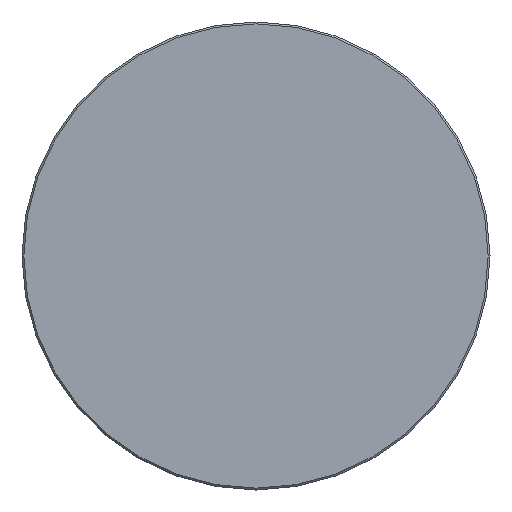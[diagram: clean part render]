
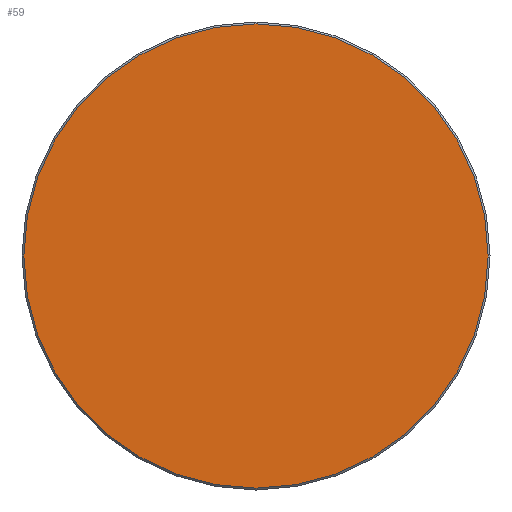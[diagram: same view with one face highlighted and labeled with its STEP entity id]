
A CAD part, left-side view. The second image highlights one B-rep face of the part: STEP entity #59.
In plain terms, the highlighted planar face has unit normal (-1, 0, 0).
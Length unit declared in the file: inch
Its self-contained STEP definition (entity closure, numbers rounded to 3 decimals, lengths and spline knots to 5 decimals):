
#2 = VERTEX_POINT ( 'NONE', #358 ) ;
#14 = DIRECTION ( 'NONE',  ( -1., 0., 0. ) ) ;
#17 = CARTESIAN_POINT ( 'NONE',  ( 0., 0., 0. ) ) ;
#30 = DIRECTION ( 'NONE',  ( 0., -1., 0. ) ) ;
#42 = DIRECTION ( 'NONE',  ( 0., -1., 0. ) ) ;
#55 = EDGE_LOOP ( 'NONE', ( #314, #58 ) ) ;
#58 = ORIENTED_EDGE ( 'NONE', *, *, #245, .T. ) ;
#59 = ADVANCED_FACE ( 'NONE', ( #138 ), #339, .T. ) ;
#61 = CIRCLE ( 'NONE', #107, 0.496 ) ;
#67 = DIRECTION ( 'NONE',  ( -1., 0., 0. ) ) ;
#72 = VERTEX_POINT ( 'NONE', #370 ) ;
#79 = CARTESIAN_POINT ( 'NONE',  ( 0., 0., 0. ) ) ;
#107 = AXIS2_PLACEMENT_3D ( 'NONE', #79, #239, #30 ) ;
#128 = AXIS2_PLACEMENT_3D ( 'NONE', #163, #14, #42 ) ;
#136 = EDGE_CURVE ( 'NONE', #2, #72, #280, .T. ) ;
#138 = FACE_OUTER_BOUND ( 'NONE', #55, .T. ) ;
#163 = CARTESIAN_POINT ( 'NONE',  ( 0., 0., 0. ) ) ;
#239 = DIRECTION ( 'NONE',  ( -1., 0., 0. ) ) ;
#245 = EDGE_CURVE ( 'NONE', #72, #2, #61, .T. ) ;
#280 = CIRCLE ( 'NONE', #378, 0.496 ) ;
#314 = ORIENTED_EDGE ( 'NONE', *, *, #136, .T. ) ;
#337 = DIRECTION ( 'NONE',  ( 0., -1., 0. ) ) ;
#339 = PLANE ( 'NONE',  #128 ) ;
#358 = CARTESIAN_POINT ( 'NONE',  ( 0., 0.496, 0. ) ) ;
#370 = CARTESIAN_POINT ( 'NONE',  ( 0., -0.496, 0. ) ) ;
#378 = AXIS2_PLACEMENT_3D ( 'NONE', #17, #67, #337 ) ;
